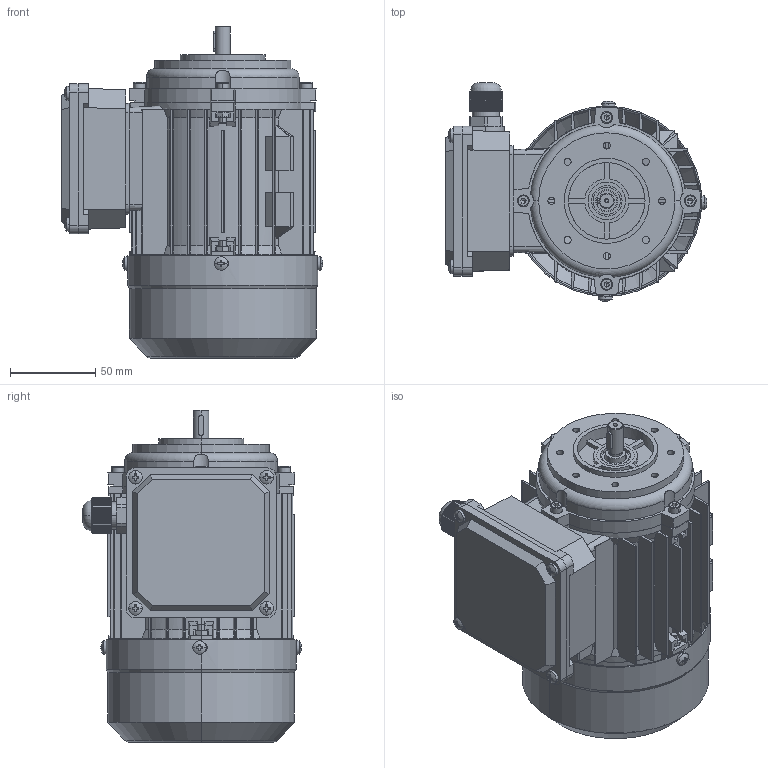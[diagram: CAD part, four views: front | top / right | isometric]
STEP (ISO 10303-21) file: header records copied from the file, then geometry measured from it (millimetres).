
FILE_DESCRIPTION (( 'STEP AP203' ), '1' );
FILE_NAME ('MS56 B14外形图.STEP', '2011-03-08T06:51:26', ( '微软用户' ), ( '微软中国' ), 'SwSTEP 2.0', 'SolidWorks 2008', '' );
FILE_SCHEMA (( 'CONFIG_CONTROL_DESIGN' ));
Length unit declared in the file: millimetre
Products named in the file (14): MS56 儂褲蹟譫_GB_FASTENER_NUT_SNAB1 M4-N; MS56 新接线盒座_默认; MS56 端盖螺钉M4×20_GB_FASTENER_SCREWS_HSHCS M4X20-N; MS56 陔諉盄碟裔蹟隊_GB_CROSS_SCREWS_TYPE1 M4X8-8  H type-N; MS56 B14俋倛芞; MS56 机壳_默认; MS56 新接线盒盖_默认; MS56 B14端盖_默认; MS56 油封_默认; MS56 后端盖_默认; MS56 风叶_默认; MS56 风罩_默认; MS56 风罩螺钉M4×5_GB_CROSS_SCREWS_TYPE1 M4X5-5  H type-N; 出线螺套M16_默认
Assembly tree (32 placements, depth 2):
  MS56 B14俋倛芞
    MS56 风罩螺钉M4×5_GB_CROSS_SCREWS_TYPE1 M4X5-5  H type-N  x4
    MS56 儂褲蹟譫_GB_FASTENER_NUT_SNAB1 M4-N  x7
    MS56 陔諉盄碟裔蹟隊_GB_CROSS_SCREWS_TYPE1 M4X8-8  H type-N  x4
    MS56 端盖螺钉M4×20_GB_FASTENER_SCREWS_HSHCS M4X20-N  x8
    MS56 机壳_默认
    MS56 风罩_默认
    MS56 新接线盒盖_默认
    MS56 风叶_默认
    MS56 油封_默认
    MS56 后端盖_默认
    MS56 新接线盒座_默认
    MS56 B14端盖_默认
    出线螺套M16_默认
Bounding box: 153.86 x 128.4 x 195 mm (x, y, z)
Volume: 322732.1 mm3; surface area: 303104 mm2
Topology: 33 solids, 33 shells, 2293 faces, 6171 edges, 3987 vertices
Faces by surface type: plane 1489, cylinder 534, cone 201, torus 37, sphere 16, bspline 16
Entity records: 63881 total; most frequent: CARTESIAN_POINT 14524, ORIENTED_EDGE 10266, DIRECTION 9341, EDGE_CURVE 5133, VERTEX_POINT 3348, VECTOR 3271, LINE 3271, AXIS2_PLACEMENT_3D 3035
